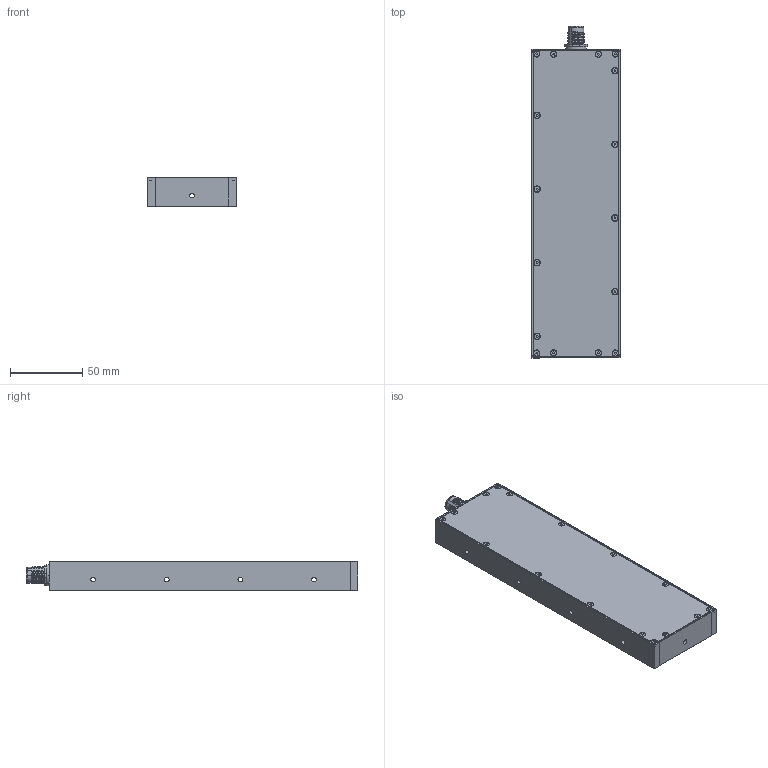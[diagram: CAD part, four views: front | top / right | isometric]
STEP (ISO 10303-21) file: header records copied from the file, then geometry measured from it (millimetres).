
FILE_DESCRIPTION (( 'STEP AP214' ), '1' );
FILE_NAME ('SBACK II 200x50.STEP', '2018-01-24T08:30:11', ( '' ), ( '' ), 'SwSTEP 2.0', 'SolidWorks 2014', '' );
FILE_SCHEMA (( 'AUTOMOTIVE_DESIGN' ));
Length unit declared in the file: millimetre
Products named in the file (1): SBACK II 200x50
Bounding box: 61 x 230 x 20 mm (x, y, z)
Surface area: 40086.5 mm2 (no closed solid volume)
Topology: 0 solids, 31 shells, 318 faces, 1020 edges, 720 vertices
Faces by surface type: plane 170, cylinder 71, bspline 35, cone 34, sphere 8
Entity records: 27858 total; most frequent: CARTESIAN_POINT 15988, ORIENTED_EDGE 1626, DIRECTION 1612, EDGE_CURVE 1004, VERTEX_POINT 712, LINE 608, VECTOR 608, AXIS2_PLACEMENT_3D 502
